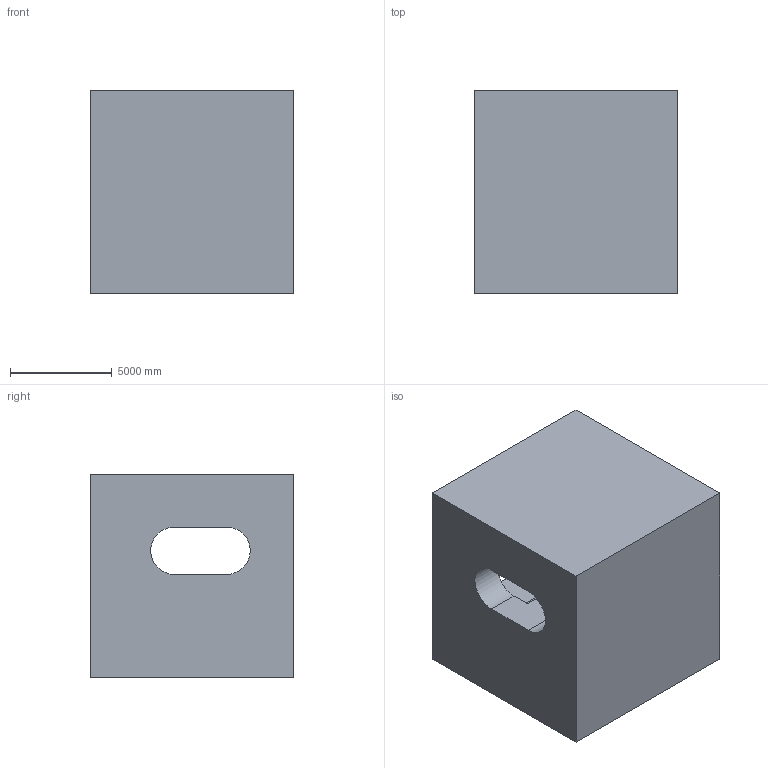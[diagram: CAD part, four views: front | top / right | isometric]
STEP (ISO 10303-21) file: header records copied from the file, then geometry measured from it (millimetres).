
FILE_DESCRIPTION (( 'STEP AP203' ), '1' );
FILE_NAME ('215.STEP', '2022-09-07T12:19:13', ( 'user' ), ( '' ), 'SwSTEP 2.0', 'SolidWorks 2021', '' );
FILE_SCHEMA (( 'CONFIG_CONTROL_DESIGN' ));
Length unit declared in the file: centimetre
Products named in the file (1): 215
Bounding box: 10000 x 10000 x 10000 mm (x, y, z)
Volume: 712246747702.5 mm3; surface area: 708972838.7 mm2
Topology: 1 solids, 1 shells, 15 faces, 42 edges, 28 vertices
Faces by surface type: plane 11, cylinder 4
Entity records: 566 total; most frequent: CARTESIAN_POINT 86, ORIENTED_EDGE 84, DIRECTION 83, EDGE_CURVE 42, LINE 33, VECTOR 33, VERTEX_POINT 28, AXIS2_PLACEMENT_3D 25
